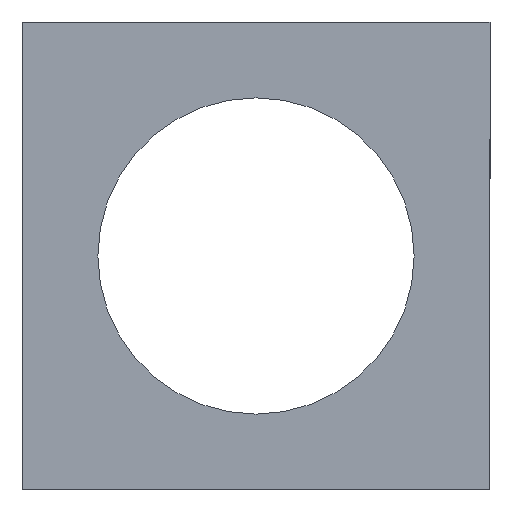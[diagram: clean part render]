
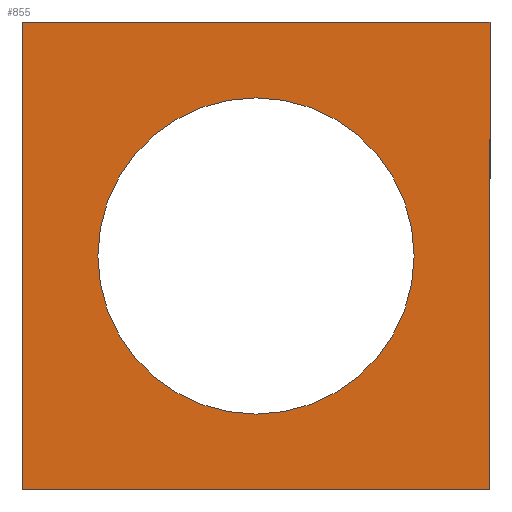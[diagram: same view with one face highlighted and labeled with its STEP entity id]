
A CAD part, front view. The second image highlights one B-rep face of the part: STEP entity #855.
In plain terms, the highlighted planar face has unit normal (0, -1, 0).
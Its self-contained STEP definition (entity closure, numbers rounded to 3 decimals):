
#230 = DIRECTION ( 'NONE',  ( 0., -1., 0. ) ) ;
#404 = LINE ( 'NONE', #1971, #539 ) ;
#513 = CARTESIAN_POINT ( 'NONE',  ( 82.5, 0., 82.5 ) ) ;
#539 = VECTOR ( 'NONE', #1585, 1000. ) ;
#600 = LINE ( 'NONE', #513, #3876 ) ;
#629 = DIRECTION ( 'NONE',  ( 0., 0., -1. ) ) ;
#670 = EDGE_CURVE ( 'NONE', #1040, #3285, #1371, .T. ) ;
#673 = ORIENTED_EDGE ( 'NONE', *, *, #1522, .F. ) ;
#749 = ORIENTED_EDGE ( 'NONE', *, *, #670, .F. ) ;
#821 = VECTOR ( 'NONE', #2137, 1000. ) ;
#850 = CARTESIAN_POINT ( 'NONE',  ( 0., 0., 55.75 ) ) ;
#855 = ADVANCED_FACE ( 'NONE', ( #4455, #2148 ), #2528, .F. ) ;
#867 = AXIS2_PLACEMENT_3D ( 'NONE', #2946, #230, #3355 ) ;
#962 = CARTESIAN_POINT ( 'NONE',  ( 0., 0., 0. ) ) ;
#1040 = VERTEX_POINT ( 'NONE', #1871 ) ;
#1089 = LINE ( 'NONE', #3694, #1196 ) ;
#1196 = VECTOR ( 'NONE', #2556, 1000. ) ;
#1282 = VERTEX_POINT ( 'NONE', #2047 ) ;
#1298 = CARTESIAN_POINT ( 'NONE',  ( 82.5, 0., -82.5 ) ) ;
#1371 = LINE ( 'NONE', #2214, #821 ) ;
#1385 = DIRECTION ( 'NONE',  ( 0., 0., 1. ) ) ;
#1475 = EDGE_LOOP ( 'NONE', ( #3962, #4349 ) ) ;
#1517 = CIRCLE ( 'NONE', #867, 55.75 ) ;
#1522 = EDGE_CURVE ( 'NONE', #3867, #4357, #600, .T. ) ;
#1585 = DIRECTION ( 'NONE',  ( -1., 0., 0. ) ) ;
#1871 = CARTESIAN_POINT ( 'NONE',  ( -82.5, 0., -82.5 ) ) ;
#1971 = CARTESIAN_POINT ( 'NONE',  ( 82.5, 0., -82.5 ) ) ;
#2047 = CARTESIAN_POINT ( 'NONE',  ( 0., 0., -55.75 ) ) ;
#2057 = CIRCLE ( 'NONE', #3035, 55.75 ) ;
#2137 = DIRECTION ( 'NONE',  ( 0., 0., 1. ) ) ;
#2148 = FACE_BOUND ( 'NONE', #1475, .T. ) ;
#2210 = EDGE_CURVE ( 'NONE', #4357, #1040, #404, .T. ) ;
#2214 = CARTESIAN_POINT ( 'NONE',  ( -82.5, 0., 82.5 ) ) ;
#2358 = EDGE_CURVE ( 'NONE', #1282, #3424, #2057, .T. ) ;
#2528 = PLANE ( 'NONE',  #3252 ) ;
#2556 = DIRECTION ( 'NONE',  ( 1., 0., 0. ) ) ;
#2570 = DIRECTION ( 'NONE',  ( 0., -1., 0. ) ) ;
#2946 = CARTESIAN_POINT ( 'NONE',  ( 0., 0., 0. ) ) ;
#2986 = DIRECTION ( 'NONE',  ( 0., 0., -1. ) ) ;
#3035 = AXIS2_PLACEMENT_3D ( 'NONE', #3371, #2570, #2986 ) ;
#3252 = AXIS2_PLACEMENT_3D ( 'NONE', #962, #3663, #1385 ) ;
#3259 = EDGE_CURVE ( 'NONE', #3285, #3867, #1089, .T. ) ;
#3261 = EDGE_CURVE ( 'NONE', #3424, #1282, #1517, .T. ) ;
#3285 = VERTEX_POINT ( 'NONE', #4489 ) ;
#3355 = DIRECTION ( 'NONE',  ( 0., 0., -1. ) ) ;
#3371 = CARTESIAN_POINT ( 'NONE',  ( 0., 0., 0. ) ) ;
#3424 = VERTEX_POINT ( 'NONE', #850 ) ;
#3663 = DIRECTION ( 'NONE',  ( 0., 1., 0. ) ) ;
#3686 = ORIENTED_EDGE ( 'NONE', *, *, #2210, .F. ) ;
#3694 = CARTESIAN_POINT ( 'NONE',  ( 82.5, 0., 82.5 ) ) ;
#3741 = EDGE_LOOP ( 'NONE', ( #749, #3686, #673, #4289 ) ) ;
#3867 = VERTEX_POINT ( 'NONE', #4448 ) ;
#3876 = VECTOR ( 'NONE', #629, 1000. ) ;
#3962 = ORIENTED_EDGE ( 'NONE', *, *, #2358, .F. ) ;
#4289 = ORIENTED_EDGE ( 'NONE', *, *, #3259, .F. ) ;
#4349 = ORIENTED_EDGE ( 'NONE', *, *, #3261, .F. ) ;
#4357 = VERTEX_POINT ( 'NONE', #1298 ) ;
#4448 = CARTESIAN_POINT ( 'NONE',  ( 82.5, 0., 82.5 ) ) ;
#4455 = FACE_OUTER_BOUND ( 'NONE', #3741, .T. ) ;
#4489 = CARTESIAN_POINT ( 'NONE',  ( -82.5, 0., 82.5 ) ) ;
